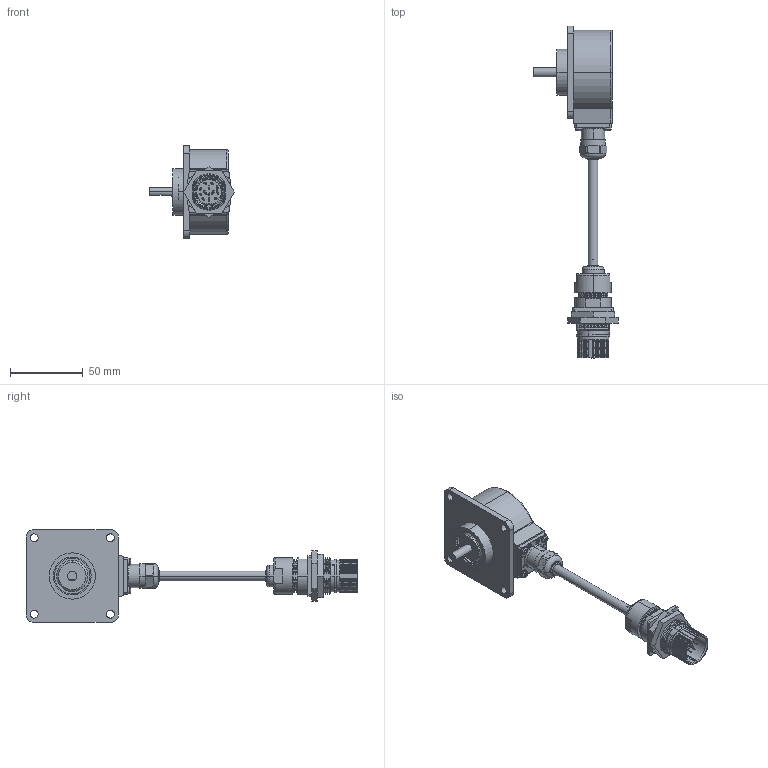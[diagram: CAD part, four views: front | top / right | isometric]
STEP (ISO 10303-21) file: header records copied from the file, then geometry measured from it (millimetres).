
FILE_DESCRIPTION (( 'STEP AP203' ), '1' );
FILE_NAME ('K58I.OXX.XXXXX.XS1Q51A.6XR14.XXXX.step', '2025-12-08T16:25:31', ( '' ), ( '' ), 'SwSTEP 2.0', 'SolidWorks 2021', '' );
FILE_SCHEMA (( 'CONFIG_CONTROL_DESIGN' ));
Length unit declared in the file: millimetre
Products named in the file (1): K58I.OXX.XXXXX.XS1Q51A.6XR14.XXXX
Bounding box: 58.14 x 228.1 x 63.5 mm (x, y, z)
Volume: 145050.7 mm3; surface area: 58394.3 mm2
Topology: 32 solids, 32 shells, 1759 faces, 4467 edges, 2866 vertices
Faces by surface type: cylinder 655, plane 515, cone 354, bspline 124, torus 69, sphere 42
Entity records: 60408 total; most frequent: CARTESIAN_POINT 18939, ORIENTED_EDGE 8886, DIRECTION 8429, EDGE_CURVE 4443, AXIS2_PLACEMENT_3D 3344, VERTEX_POINT 2866, EDGE_LOOP 1935, FACE_OUTER_BOUND 1759
